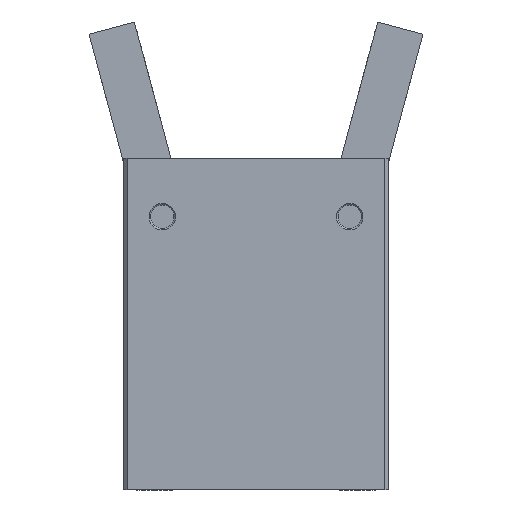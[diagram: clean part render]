
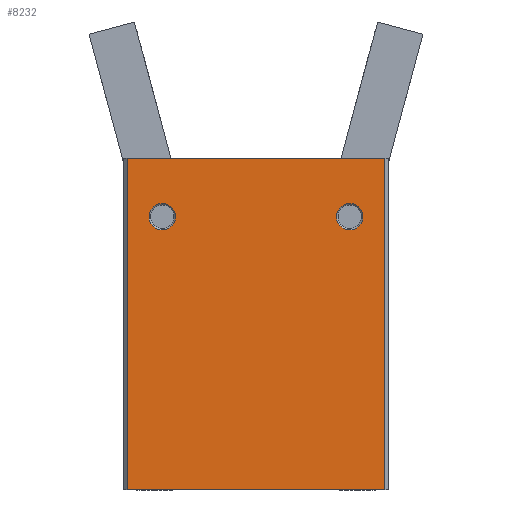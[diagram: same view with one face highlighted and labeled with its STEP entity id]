
A CAD part, front view. The second image highlights one B-rep face of the part: STEP entity #8232.
In plain terms, the highlighted planar face has unit normal (0, -1, 0).
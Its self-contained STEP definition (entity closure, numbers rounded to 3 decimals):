
#346 = LINE ( 'NONE', #5532, #347 ) ;
#347 = VECTOR ( 'NONE', #5531, 1000. ) ;
#352 = LINE ( 'NONE', #5523, #353 ) ;
#353 = VECTOR ( 'NONE', #5521, 1000. ) ;
#739 = EDGE_LOOP ( 'NONE', ( #7990, #7992 ) ) ;
#740 = EDGE_LOOP ( 'NONE', ( #7993, #7995 ) ) ;
#741 = EDGE_LOOP ( 'NONE', ( #7997, #7999, #8000, #8002 ) ) ;
#814 = AXIS2_PLACEMENT_3D ( 'NONE', #5509, #5508, #5507 ) ;
#815 = AXIS2_PLACEMENT_3D ( 'NONE', #5505, #5504, #5503 ) ;
#839 = AXIS2_PLACEMENT_3D ( 'NONE', #5190, #5189, #5187 ) ;
#841 = AXIS2_PLACEMENT_3D ( 'NONE', #5179, #5178, #5177 ) ;
#1020 = FACE_BOUND ( 'NONE', #739, .T. ) ;
#1021 = FACE_BOUND ( 'NONE', #740, .T. ) ;
#1022 = FACE_OUTER_BOUND ( 'NONE', #741, .T. ) ;
#1363 = AXIS2_PLACEMENT_3D ( 'NONE', #5907, #5906, #5905 ) ;
#1532 = LINE ( 'NONE', #5516, #1533 ) ;
#1533 = VECTOR ( 'NONE', #5515, 1000. ) ;
#1534 = LINE ( 'NONE', #5513, #1535 ) ;
#1535 = VECTOR ( 'NONE', #5512, 1000. ) ;
#1536 = CIRCLE ( 'NONE', #814, 1.7 ) ;
#1538 = CIRCLE ( 'NONE', #815, 1.7 ) ;
#1644 = CIRCLE ( 'NONE', #839, 1.7 ) ;
#1650 = CIRCLE ( 'NONE', #841, 1.7 ) ;
#2290 = EDGE_CURVE ( 'NONE', #4089, #4118, #346, .T. ) ;
#2293 = EDGE_CURVE ( 'NONE', #4118, #4134, #352, .T. ) ;
#2295 = EDGE_CURVE ( 'NONE', #4134, #4076, #1532, .T. ) ;
#2296 = EDGE_CURVE ( 'NONE', #4076, #4089, #1534, .T. ) ;
#2297 = EDGE_CURVE ( 'NONE', #4037, #3644, #1536, .T. ) ;
#2298 = EDGE_CURVE ( 'NONE', #3968, #3952, #1538, .T. ) ;
#2367 = EDGE_CURVE ( 'NONE', #3644, #4037, #1644, .T. ) ;
#2371 = EDGE_CURVE ( 'NONE', #3952, #3968, #1650, .T. ) ;
#3644 = VERTEX_POINT ( 'NONE', #6555 ) ;
#3952 = VERTEX_POINT ( 'NONE', #7584 ) ;
#3968 = VERTEX_POINT ( 'NONE', #7565 ) ;
#4037 = VERTEX_POINT ( 'NONE', #7483 ) ;
#4076 = VERTEX_POINT ( 'NONE', #7437 ) ;
#4089 = VERTEX_POINT ( 'NONE', #7419 ) ;
#4118 = VERTEX_POINT ( 'NONE', #7384 ) ;
#4134 = VERTEX_POINT ( 'NONE', #7367 ) ;
#5177 = DIRECTION ( 'NONE',  ( 0., 0., -1. ) ) ;
#5178 = DIRECTION ( 'NONE',  ( 0., 1., 0. ) ) ;
#5179 = CARTESIAN_POINT ( 'NONE',  ( 12., -11., 12. ) ) ;
#5187 = DIRECTION ( 'NONE',  ( 0., 0., -1. ) ) ;
#5189 = DIRECTION ( 'NONE',  ( 0., 1., 0. ) ) ;
#5190 = CARTESIAN_POINT ( 'NONE',  ( -12., -11., 12. ) ) ;
#5503 = DIRECTION ( 'NONE',  ( 0., 0., -1. ) ) ;
#5504 = DIRECTION ( 'NONE',  ( 0., 1., 0. ) ) ;
#5505 = CARTESIAN_POINT ( 'NONE',  ( 12., -11., 12. ) ) ;
#5507 = DIRECTION ( 'NONE',  ( 0., 0., -1. ) ) ;
#5508 = DIRECTION ( 'NONE',  ( 0., 1., 0. ) ) ;
#5509 = CARTESIAN_POINT ( 'NONE',  ( -12., -11., 12. ) ) ;
#5512 = DIRECTION ( 'NONE',  ( 1., 0., 0. ) ) ;
#5513 = CARTESIAN_POINT ( 'NONE',  ( -17., -11., -23. ) ) ;
#5515 = DIRECTION ( 'NONE',  ( 0., 0., -1. ) ) ;
#5516 = CARTESIAN_POINT ( 'NONE',  ( -16.5, -11., 19.5 ) ) ;
#5521 = DIRECTION ( 'NONE',  ( -1., 0., 0. ) ) ;
#5523 = CARTESIAN_POINT ( 'NONE',  ( -17., -11., 19.5 ) ) ;
#5531 = DIRECTION ( 'NONE',  ( 0., 0., 1. ) ) ;
#5532 = CARTESIAN_POINT ( 'NONE',  ( 16.5, -11., 19.5 ) ) ;
#5905 = DIRECTION ( 'NONE',  ( 0., 0., -1. ) ) ;
#5906 = DIRECTION ( 'NONE',  ( 0., -1., 0. ) ) ;
#5907 = CARTESIAN_POINT ( 'NONE',  ( -17., -11., 19.5 ) ) ;
#5908 = PLANE ( 'NONE',  #1363 ) ;
#6555 = CARTESIAN_POINT ( 'NONE',  ( -12., -11., 10.3 ) ) ;
#7367 = CARTESIAN_POINT ( 'NONE',  ( -16.5, -11., 19.5 ) ) ;
#7384 = CARTESIAN_POINT ( 'NONE',  ( 16.5, -11., 19.5 ) ) ;
#7419 = CARTESIAN_POINT ( 'NONE',  ( 16.5, -11., -23. ) ) ;
#7437 = CARTESIAN_POINT ( 'NONE',  ( -16.5, -11., -23. ) ) ;
#7483 = CARTESIAN_POINT ( 'NONE',  ( -12., -11., 13.7 ) ) ;
#7565 = CARTESIAN_POINT ( 'NONE',  ( 12., -11., 13.7 ) ) ;
#7584 = CARTESIAN_POINT ( 'NONE',  ( 12., -11., 10.3 ) ) ;
#7990 = ORIENTED_EDGE ( 'NONE', *, *, #2371, .T. ) ;
#7992 = ORIENTED_EDGE ( 'NONE', *, *, #2298, .T. ) ;
#7993 = ORIENTED_EDGE ( 'NONE', *, *, #2367, .T. ) ;
#7995 = ORIENTED_EDGE ( 'NONE', *, *, #2297, .T. ) ;
#7997 = ORIENTED_EDGE ( 'NONE', *, *, #2295, .T. ) ;
#7999 = ORIENTED_EDGE ( 'NONE', *, *, #2296, .T. ) ;
#8000 = ORIENTED_EDGE ( 'NONE', *, *, #2290, .T. ) ;
#8002 = ORIENTED_EDGE ( 'NONE', *, *, #2293, .T. ) ;
#8232 = ADVANCED_FACE ( 'NONE', ( #1020, #1021, #1022 ), #5908, .T. ) ;
